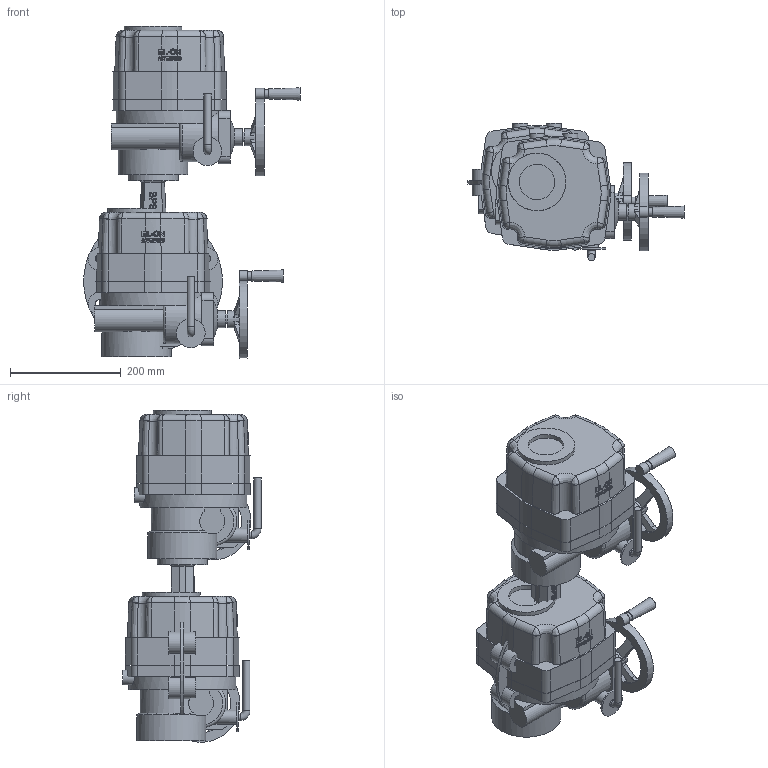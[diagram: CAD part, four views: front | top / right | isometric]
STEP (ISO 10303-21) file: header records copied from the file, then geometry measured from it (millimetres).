
FILE_DESCRIPTION( ( 'Unknown' ), '1' );
FILE_NAME( 'R:/ECCUA/ROOTSI BPS 3D vidinad/Poordklapid Lug type/Butterfly valve(lug) with electric actuator BPS/STEP formaat/BPS 2313125ER butterfly valve DN125.stp', 'Unknown', ( 'Unknown' ), ( 'Unknown' ), 'PSStep 10.1', 'Unknown', ' ' );
FILE_SCHEMA( ( 'AUTOMOTIVE_DESIGN { 1 0 10303 214 1 1 1 1 }' ) );
Length unit declared in the file: millimetre
Products named in the file (3): Assem1; BPS 8005150 electric actuator DN150; Butterfly valve lug type DN125 PN10-16 BPS
Bounding box: 389.61 x 249 x 598.23 mm (x, y, z)
Volume: 18713166.5 mm3; surface area: 1164994.2 mm2
Topology: 4 solids, 6 shells, 1176 faces, 3074 edges, 1982 vertices
Faces by surface type: plane 460, cylinder 290, bspline 180, cone 116, extrusion 106, torus 24
Full cylindrical faces by diameter (mm): 9 x8, 13 x4, 13.835 x16, 15 x2, 18 x2, 22 x2, 25 x2, 27 x4, 30 x4, 52 x2, 64 x2, 90 x2, 104 x2, 106 x2, 112 x2, 125 x4, 163 x4, 180 x4, 193 x2
Entity records: 33218 total; most frequent: CARTESIAN_POINT 15306, ORIENTED_EDGE 2918, DIRECTION 2284, EDGE_CURVE 1459, VERTEX_POINT 967, AXIS2_PLACEMENT_3D 834, EDGE_LOOP 712, FACE_OUTER_BOUND 628
